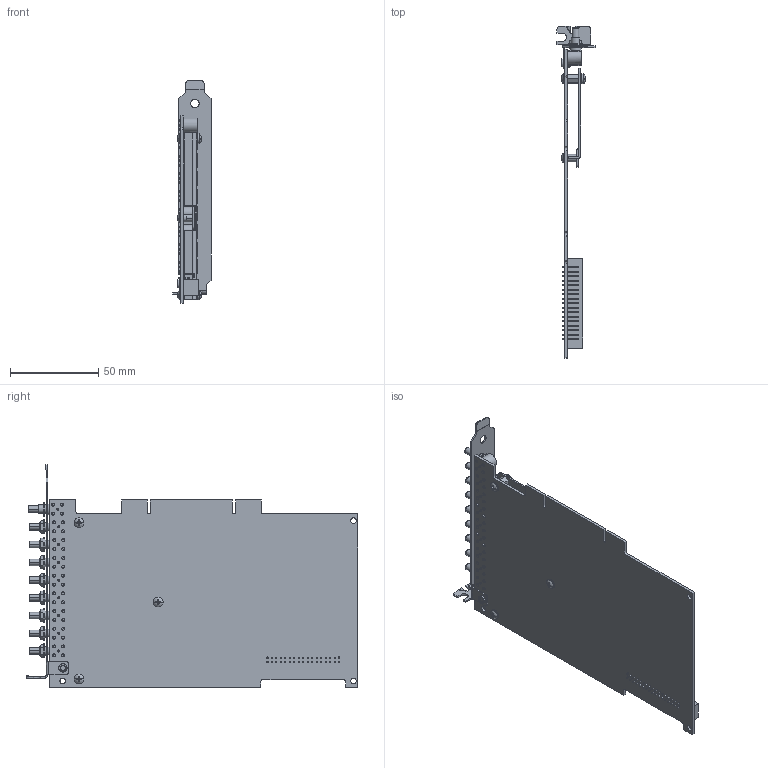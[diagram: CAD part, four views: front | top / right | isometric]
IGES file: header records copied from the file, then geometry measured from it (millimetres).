
Start section:  PTC IGES file: cu_pci--4472.igs
Global section: file name: cu_pci--4472.igs; native system: Pro/ENGINEER by Parametric Technology Corporation; preprocessor: 2010230; author: dkendric; organization: Unknown; date: 20110822.125707; units: inch
Bounding box: 21.59 x 187.91 x 126.22 mm (x, y, z)
Surface area: 61015.3 mm2 (no closed solid volume)
Topology: 0 solids, 0 shells, 1823 faces, 9494 edges, 9374 vertices
Faces by surface type: bspline 1315, revolution 508
